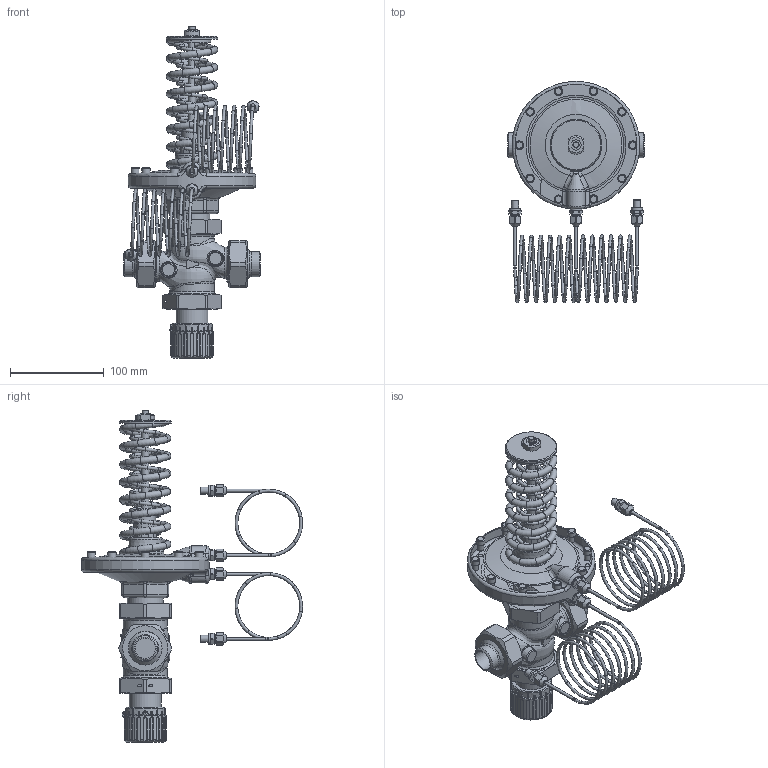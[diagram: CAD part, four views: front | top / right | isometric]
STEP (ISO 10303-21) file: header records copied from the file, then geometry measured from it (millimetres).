
FILE_DESCRIPTION(/* description */ (''),/* implementation_level */ '2;1');
FILE_NAME(/* name */ 'rd122p2_dn20_W.stp',/* time_stamp */ '2012-11-12T11:09:56+01:00',/* author */ ('JENIK'),/* organization */ ('LDM'),/* preprocessor_version */ 'ST-DEVELOPER v11',/* originating_system */ 'SIEMENS PLM Software NX 7.0',/* authorisation */ '');
FILE_SCHEMA (('CONFIG_CONTROL_DESIGN'));
Length unit declared in the file: millimetre
Products named in the file (1): jeniB5D7d17n
Bounding box: 146 x 235.73 x 354 mm (x, y, z)
Volume: 552034.3 mm3; surface area: 199418.4 mm2
Topology: 9 solids, 22 shells, 1289 faces, 3018 edges, 1817 vertices
Faces by surface type: torus 368, cylinder 366, plane 321, bspline 135, cone 91, sphere 8
Full cylindrical faces by diameter (mm): 2 x3, 2.5 x1, 3 x4, 4.891 x10, 6 x12, 6.5 x14, 6.6 x1, 7.794 x4, 8 x7, 9 x10, 12 x4, 21.7 x2, 22 x1, 24.5 x1, 26.9 x2, 28 x2, 30 x1, 33.8 x1, 35 x1, 35.8 x2, 36 x2, 37 x1, 38 x3, 38.6 x2, 38.952 x2, 40 x2, 41.91 x2, 43 x1, 47 x2, 55 x1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
Entity records: 45495 total; most frequent: CARTESIAN_POINT 19558, DIRECTION 5336, ORIENTED_EDGE 4824, EDGE_CURVE 2412, AXIS2_PLACEMENT_3D 2357, EDGE_LOOP 1855, VERTEX_POINT 1687, ADVANCED_FACE 1289
